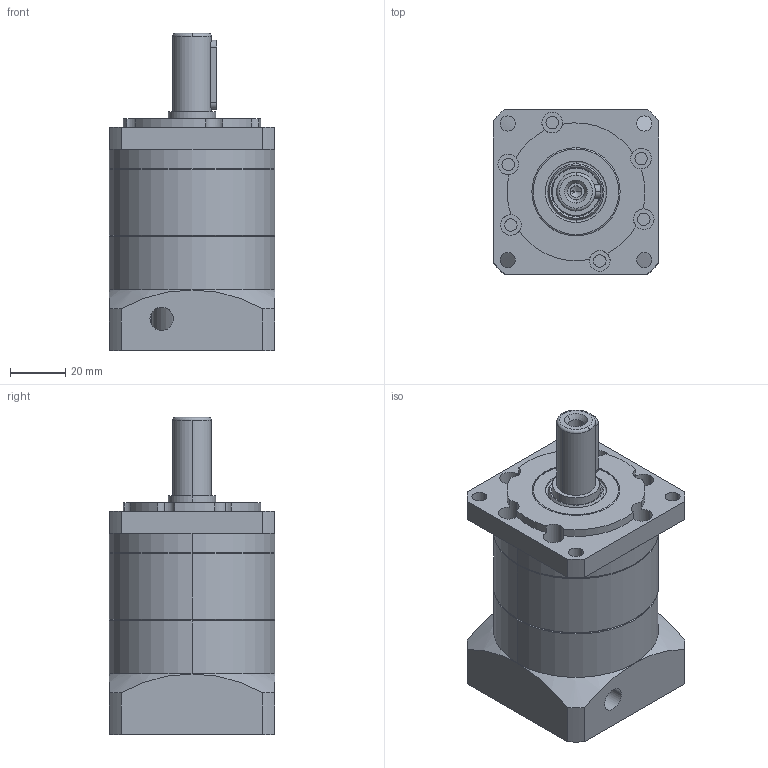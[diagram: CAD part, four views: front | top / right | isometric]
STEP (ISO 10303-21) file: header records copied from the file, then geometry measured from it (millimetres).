
FILE_DESCRIPTION (( 'STEP AP203' ), '1' );
FILE_NAME ('PAW060-L1-14-50-70.STEP', '2024-06-24T07:10:24', ( 'Windows User' ), ( 'P R C' ), 'SwSTEP 2.0', 'SolidWorks 2016', '' );
FILE_SCHEMA (( 'CONFIG_CONTROL_DESIGN' ));
Length unit declared in the file: millimetre
Products named in the file (9): PAW060-内齿圈; PAW060-帣釱; TC18-32-7_TC-34.9-55-7; 囀鞠褒蹟佪-M5℅16; 邧埴瑩 5x5x25; PAW060-奻屳唳; PAW060-L1-14-50-70; GB／T276-94深沟球轴承61905-2RZ; PAW060-薊粣_LZ02
Assembly tree (8 placements, depth 2):
  PAW060-L1-14-50-70
    PAW060-奻屳唳
    GB／T276-94深沟球轴承61905-2RZ
    PAW060-薊粣_LZ02
    PAW060-内齿圈
    PAW060-帣釱
    TC18-32-7_TC-34.9-55-7
    囀鞠褒蹟佪-M5℅16
    邧埴瑩 5x5x25
Bounding box: 60 x 60 x 115 mm (x, y, z)
Volume: 222240.8 mm3; surface area: 68042.1 mm2
Topology: 25 solids, 25 shells, 1091 faces, 3140 edges, 2070 vertices
Faces by surface type: plane 538, cylinder 186, bspline 166, sphere 95, torus 74, cone 32
Entity records: 46084 total; most frequent: CARTESIAN_POINT 17833, ORIENTED_EDGE 6182, DIRECTION 5014, EDGE_CURVE 3091, VERTEX_POINT 2044, AXIS2_PLACEMENT_3D 1778, LINE 1458, VECTOR 1458
